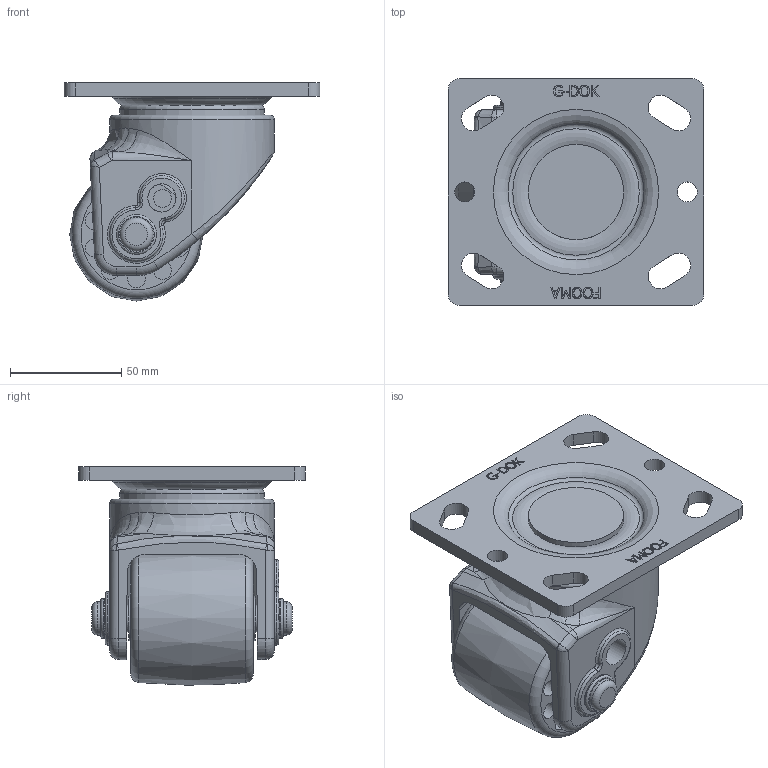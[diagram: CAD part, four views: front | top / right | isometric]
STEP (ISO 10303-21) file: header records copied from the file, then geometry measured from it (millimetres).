
FILE_DESCRIPTION(/* description */ (' '),/* implementation_level */ '2;1');
FILE_NAME(/* name */ 'E:\홈피용도면\홈페이지용3d\GLH-SERIES(PEU,PUS)\GLH-60-ASF-PUS.stp',/* time_stamp */ '2017-01-25T18:10:39+09:00',/* author */ ('Administrator'),/* organization */ (' '),/* preprocessor_version */ 'ST-DEVELOPER v16.5',/* originating_system */ 'Autodesk Inventor 2017',/* authorisation */ ' ');
FILE_SCHEMA (('AUTOMOTIVE_DESIGN { 1 0 10303 214 3 1 1 }'));
Length unit declared in the file: millimetre
Products named in the file (1): GLH-60-ASF-PUS
Bounding box: 115 x 102 x 98.12 mm (x, y, z)
Volume: 362208.8 mm3; surface area: 71091.5 mm2
Topology: 1 solids, 2 shells, 463 faces, 1146 edges, 733 vertices
Faces by surface type: plane 167, bspline 157, cylinder 65, torus 30, cone 24, sphere 20
Full cylindrical faces by diameter (mm): 7.8 x1, 8 x20, 9 x2, 11.95 x2, 12.2 x2, 12.676 x1, 13 x2, 15 x2, 18 x2, 20 x2, 42.8 x1, 65.14 x1, 74 x1
Entity records: 22850 total; most frequent: CARTESIAN_POINT 12757, ORIENTED_EDGE 2130, DIRECTION 1852, EDGE_CURVE 1065, AXIS2_PLACEMENT_3D 734, VERTEX_POINT 717, EDGE_LOOP 592, FACE_OUTER_BOUND 463
